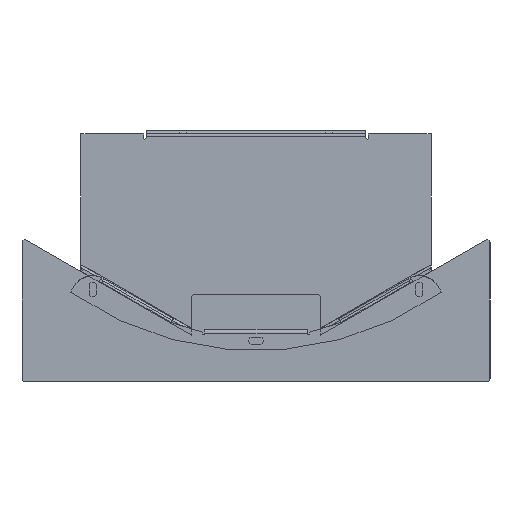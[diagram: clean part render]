
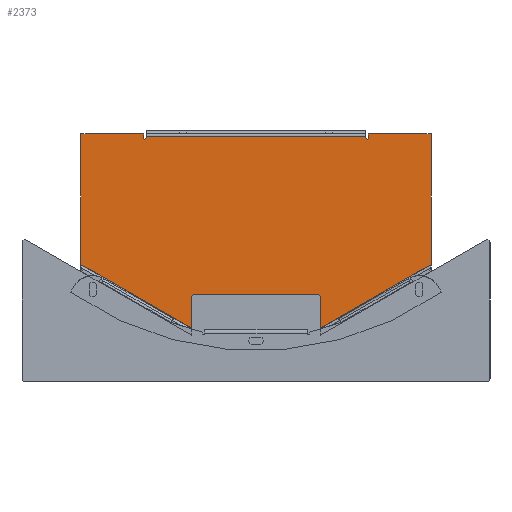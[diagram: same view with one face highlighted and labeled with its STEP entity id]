
A CAD part, front view. The second image highlights one B-rep face of the part: STEP entity #2373.
In plain terms, the highlighted planar face has unit normal (0, -1, 0).
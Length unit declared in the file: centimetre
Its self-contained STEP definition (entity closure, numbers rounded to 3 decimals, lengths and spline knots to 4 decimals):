
#83=CIRCLE('',#2491,0.2);
#84=CIRCLE('',#2494,0.2);
#113=CIRCLE('',#2560,0.1);
#114=CIRCLE('',#2561,0.1);
#193=FACE_OUTER_BOUND('',#334,.T.);
#334=EDGE_LOOP('',(#1817,#1818,#1819,#1820,#1821,#1822,#1823,#1824,#1825,
#1826,#1827,#1828,#1829,#1830,#1831,#1832,#1833,#1834));
#421=LINE('',#3361,#683);
#432=LINE('',#3390,#694);
#472=LINE('',#3512,#734);
#543=LINE('',#3785,#805);
#548=LINE('',#3802,#810);
#549=LINE('',#3804,#811);
#550=LINE('',#3806,#812);
#551=LINE('',#3808,#813);
#552=LINE('',#3811,#814);
#553=LINE('',#3813,#815);
#554=LINE('',#3817,#816);
#555=LINE('',#3819,#817);
#556=LINE('',#3821,#818);
#557=LINE('',#3822,#819);
#683=VECTOR('',#2674,2.1206);
#694=VECTOR('',#2689,2.1206);
#734=VECTOR('',#2789,8.45);
#805=VECTOR('',#2976,15.);
#810=VECTOR('',#2999,8.7115);
#811=VECTOR('',#3000,8.946);
#812=VECTOR('',#3001,4.3);
#813=VECTOR('',#3002,0.2);
#814=VECTOR('',#3005,0.072);
#815=VECTOR('',#3006,0.072);
#816=VECTOR('',#3009,0.2);
#817=VECTOR('',#3010,4.3);
#818=VECTOR('',#3011,8.946);
#819=VECTOR('',#3012,8.7115);
#961=VERTEX_POINT('',#3358);
#962=VERTEX_POINT('',#3360);
#968=VERTEX_POINT('',#3373);
#974=VERTEX_POINT('',#3388);
#1025=VERTEX_POINT('',#3507);
#1026=VERTEX_POINT('',#3511);
#1090=VERTEX_POINT('',#3782);
#1091=VERTEX_POINT('',#3784);
#1094=VERTEX_POINT('',#3801);
#1095=VERTEX_POINT('',#3803);
#1096=VERTEX_POINT('',#3805);
#1097=VERTEX_POINT('',#3807);
#1098=VERTEX_POINT('',#3809);
#1099=VERTEX_POINT('',#3812);
#1100=VERTEX_POINT('',#3814);
#1101=VERTEX_POINT('',#3816);
#1102=VERTEX_POINT('',#3818);
#1103=VERTEX_POINT('',#3820);
#1179=EDGE_CURVE('',#962,#961,#421,.T.);
#1192=EDGE_CURVE('',#968,#974,#432,.T.);
#1248=EDGE_CURVE('',#1025,#962,#83,.T.);
#1250=EDGE_CURVE('',#1026,#1025,#472,.T.);
#1252=EDGE_CURVE('',#974,#1026,#84,.T.);
#1353=EDGE_CURVE('',#1091,#1090,#543,.T.);
#1361=EDGE_CURVE('',#961,#1094,#548,.T.);
#1362=EDGE_CURVE('',#1095,#1094,#549,.T.);
#1363=EDGE_CURVE('',#1096,#1095,#550,.T.);
#1364=EDGE_CURVE('',#1097,#1096,#551,.T.);
#1365=EDGE_CURVE('',#1098,#1097,#113,.T.);
#1366=EDGE_CURVE('',#1091,#1098,#552,.T.);
#1367=EDGE_CURVE('',#1099,#1090,#553,.T.);
#1368=EDGE_CURVE('',#1100,#1099,#114,.T.);
#1369=EDGE_CURVE('',#1101,#1100,#554,.T.);
#1370=EDGE_CURVE('',#1102,#1101,#555,.T.);
#1371=EDGE_CURVE('',#1103,#1102,#556,.T.);
#1372=EDGE_CURVE('',#1103,#968,#557,.T.);
#1817=ORIENTED_EDGE('',*,*,#1179,.T.);
#1818=ORIENTED_EDGE('',*,*,#1361,.T.);
#1819=ORIENTED_EDGE('',*,*,#1362,.F.);
#1820=ORIENTED_EDGE('',*,*,#1363,.F.);
#1821=ORIENTED_EDGE('',*,*,#1364,.F.);
#1822=ORIENTED_EDGE('',*,*,#1365,.F.);
#1823=ORIENTED_EDGE('',*,*,#1366,.F.);
#1824=ORIENTED_EDGE('',*,*,#1353,.T.);
#1825=ORIENTED_EDGE('',*,*,#1367,.F.);
#1826=ORIENTED_EDGE('',*,*,#1368,.F.);
#1827=ORIENTED_EDGE('',*,*,#1369,.F.);
#1828=ORIENTED_EDGE('',*,*,#1370,.F.);
#1829=ORIENTED_EDGE('',*,*,#1371,.F.);
#1830=ORIENTED_EDGE('',*,*,#1372,.T.);
#1831=ORIENTED_EDGE('',*,*,#1192,.T.);
#1832=ORIENTED_EDGE('',*,*,#1252,.T.);
#1833=ORIENTED_EDGE('',*,*,#1250,.T.);
#1834=ORIENTED_EDGE('',*,*,#1248,.T.);
#2260=PLANE('',#2559);
#2373=ADVANCED_FACE('',(#193),#2260,.T.);
#2491=AXIS2_PLACEMENT_3D('',#3508,#2784,#2785);
#2494=AXIS2_PLACEMENT_3D('',#3515,#2793,#2794);
#2559=AXIS2_PLACEMENT_3D('',#3800,#2997,#2998);
#2560=AXIS2_PLACEMENT_3D('',#3810,#3003,#3004);
#2561=AXIS2_PLACEMENT_3D('',#3815,#3007,#3008);
#2674=DIRECTION('',(0.,0.,-1.));
#2689=DIRECTION('',(0.,0.,1.));
#2784=DIRECTION('center_axis',(0.,1.,0.));
#2785=DIRECTION('ref_axis',(0.707,0.,0.707));
#2789=DIRECTION('',(1.,0.,0.));
#2793=DIRECTION('center_axis',(0.,1.,0.));
#2794=DIRECTION('ref_axis',(-0.707,0.,0.707));
#2976=DIRECTION('',(-1.,0.,0.));
#2997=DIRECTION('center_axis',(0.,-1.,0.));
#2998=DIRECTION('ref_axis',(0.,0.,-1.));
#2999=DIRECTION('',(0.866,0.,0.5));
#3000=DIRECTION('',(0.,0.,-1.));
#3001=DIRECTION('',(1.,0.,0.));
#3002=DIRECTION('',(0.,0.,1.));
#3003=DIRECTION('center_axis',(0.,-1.,0.));
#3004=DIRECTION('ref_axis',(-1.,0.,0.));
#3005=DIRECTION('',(0.,0.,-1.));
#3006=DIRECTION('',(0.,0.,1.));
#3007=DIRECTION('center_axis',(0.,-1.,0.));
#3008=DIRECTION('ref_axis',(-0.694,0.,0.72));
#3009=DIRECTION('',(0.,0.,-1.));
#3010=DIRECTION('',(1.,0.,0.));
#3011=DIRECTION('',(0.,0.,1.));
#3012=DIRECTION('',(0.866,0.,-0.5));
#3358=CARTESIAN_POINT('',(4.425,115.,3.6369));
#3360=CARTESIAN_POINT('',(4.425,115.,5.7575));
#3361=CARTESIAN_POINT('',(4.425,115.,8.196));
#3373=CARTESIAN_POINT('',(-4.425,115.,3.6369));
#3388=CARTESIAN_POINT('',(-4.425,115.,5.7575));
#3390=CARTESIAN_POINT('',(-4.425,115.,6.796));
#3507=CARTESIAN_POINT('',(4.225,115.,5.9575));
#3508=CARTESIAN_POINT('Origin',(4.225,115.,5.7575));
#3511=CARTESIAN_POINT('',(-4.225,115.,5.9575));
#3512=CARTESIAN_POINT('',(-2.2125,115.,5.9575));
#3515=CARTESIAN_POINT('Origin',(-4.225,115.,5.7575));
#3782=CARTESIAN_POINT('',(-7.5,115.,16.7387));
#3784=CARTESIAN_POINT('',(7.5,115.,16.7387));
#3785=CARTESIAN_POINT('',(3.75,115.,16.7387));
#3800=CARTESIAN_POINT('Origin',(0.,115.,10.4345));
#3801=CARTESIAN_POINT('',(11.9694,115.,7.9927));
#3802=CARTESIAN_POINT('',(8.0095,115.,5.7065));
#3803=CARTESIAN_POINT('',(11.9694,115.,16.9387));
#3804=CARTESIAN_POINT('',(11.9694,115.,16.9387));
#3805=CARTESIAN_POINT('',(7.6694,115.,16.9387));
#3806=CARTESIAN_POINT('',(7.6694,115.,16.9387));
#3807=CARTESIAN_POINT('',(7.6694,115.,16.7387));
#3808=CARTESIAN_POINT('',(7.6694,115.,16.7387));
#3809=CARTESIAN_POINT('',(7.5,115.,16.6667));
#3810=CARTESIAN_POINT('Origin',(7.6,115.,16.6667));
#3811=CARTESIAN_POINT('',(7.5,115.,16.9387));
#3812=CARTESIAN_POINT('',(-7.5,115.,16.6667));
#3813=CARTESIAN_POINT('',(-7.5,115.,16.6667));
#3814=CARTESIAN_POINT('',(-7.6694,115.,16.7387));
#3815=CARTESIAN_POINT('Origin',(-7.6,115.,16.6667));
#3816=CARTESIAN_POINT('',(-7.6694,115.,16.9387));
#3817=CARTESIAN_POINT('',(-7.6694,115.,16.9387));
#3818=CARTESIAN_POINT('',(-11.9694,115.,16.9387));
#3819=CARTESIAN_POINT('',(-11.9694,115.,16.9387));
#3820=CARTESIAN_POINT('',(-11.9694,115.,7.9927));
#3821=CARTESIAN_POINT('',(-11.9694,115.,7.5308));
#3822=CARTESIAN_POINT('',(-4.2202,115.,3.5187));
